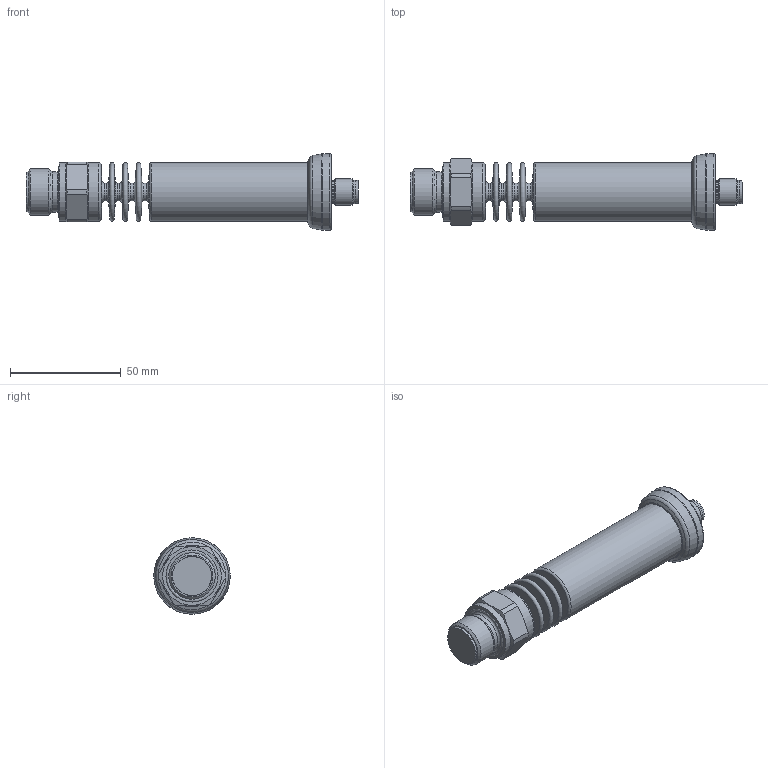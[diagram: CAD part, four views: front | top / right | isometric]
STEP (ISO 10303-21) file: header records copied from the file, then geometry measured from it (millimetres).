
FILE_DESCRIPTION(/* description */ (''),/* implementation_level */ '2;1');
FILE_NAME(/* name */ 'C:\Users\cz1166\Documents\STEP\DMP331Pi-50x-xxxx-x-x-M10-Z00-1-x-x-211.stp',/* time_stamp */ '2020-10-01T09:20:25+02:00',/* author */ ('cz1166'),/* organization */ (''),/* preprocessor_version */ 'ST-DEVELOPER v16.5',/* originating_system */ 'Autodesk Inventor 2017',/* authorisation */ '');
FILE_SCHEMA (('AUTOMOTIVE_DESIGN { 1 0 10303 214 3 1 1 }'));
Length unit declared in the file: millimetre
Products named in the file (1): DMP331Pi-50x-xxxx-x-x-M10-Z00-1-x-x-211
Bounding box: 149.93 x 34.43 x 34.43 mm (x, y, z)
Volume: 70718.2 mm3; surface area: 16412.7 mm2
Topology: 1 solids, 1 shells, 75 faces, 163 edges, 97 vertices
Faces by surface type: cylinder 22, torus 21, cone 16, plane 15, bspline 1
Full cylindrical faces by diameter (mm): 8 x4, 10.4 x1, 10.6 x2, 12 x1, 17.7 x1, 18.4 x1, 20.955 x1, 21.4 x1, 26.5 x3, 34.5 x1
Entity records: 1870 total; most frequent: CARTESIAN_POINT 366, DIRECTION 316, ORIENTED_EDGE 202, AXIS2_PLACEMENT_3D 152, EDGE_LOOP 132, EDGE_CURVE 101, VERTEX_POINT 85, CIRCLE 76
